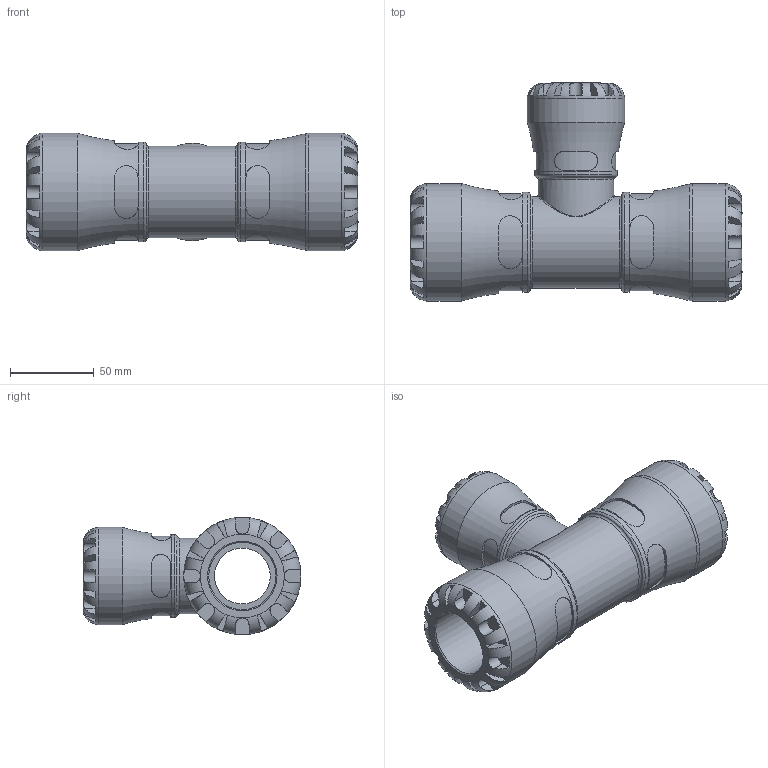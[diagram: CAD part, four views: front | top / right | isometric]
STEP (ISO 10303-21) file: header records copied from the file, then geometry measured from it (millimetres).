
FILE_DESCRIPTION(/* description */ ('PLASSON G-PLASS REDUCING TEE 40X32X40'),/* implementation_level */ '2;1');
FILE_NAME(/* name */ 'C:\Users\Kirill\Dropbox\99-16-3568-Processing\S1\153400\stp\153400040032.stp',/* time_stamp */ '2023-10-21T22:57:00+04:00',/* author */ ('KIM'),/* organization */ (''),/* preprocessor_version */ 'ST-DEVELOPER v17.2',/* originating_system */ 'Autodesk Inventor 2019',/* authorisation */ '');
FILE_SCHEMA (('AUTOMOTIVE_DESIGN { 1 0 10303 214 3 1 1 }'));
Length unit declared in the file: millimetre
Products named in the file (1): 153400040032
Bounding box: 198 x 130 x 70 mm (x, y, z)
Volume: 454794 mm3; surface area: 92587.4 mm2
Topology: 1 solids, 1 shells, 287 faces, 760 edges, 488 vertices
Faces by surface type: plane 174, cylinder 97, torus 13, cone 2, bspline 1
Full cylindrical faces by diameter (mm): 26.667 x1, 32 x1, 33.333 x1, 40 x2, 45.24 x1, 49.3 x1, 54.6 x1, 58 x1, 59.5 x2, 70 x2
Entity records: 11884 total; most frequent: CARTESIAN_POINT 4617, ORIENTED_EDGE 1522, DIRECTION 1446, EDGE_CURVE 761, AXIS2_PLACEMENT_3D 595, VERTEX_POINT 489, CIRCLE 308, EDGE_LOOP 304
